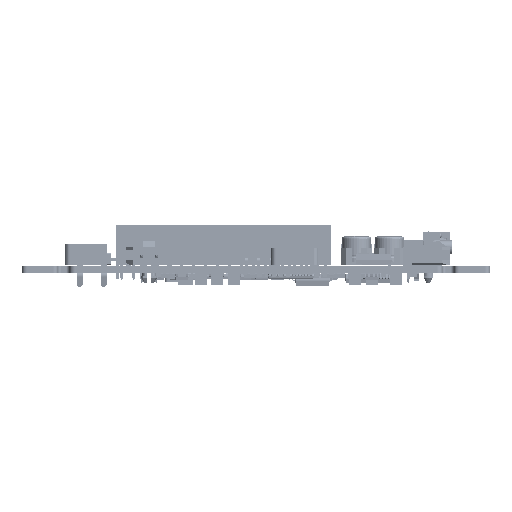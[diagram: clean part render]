
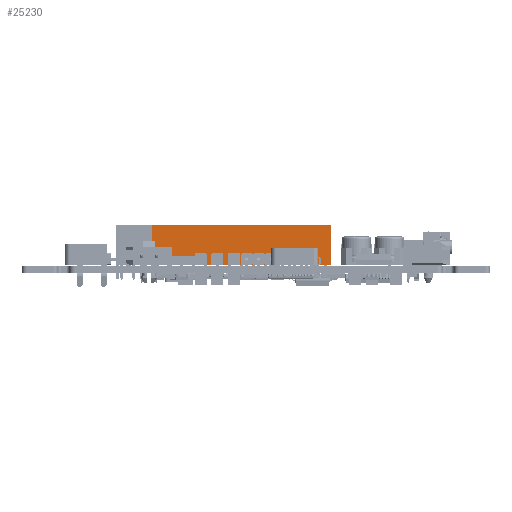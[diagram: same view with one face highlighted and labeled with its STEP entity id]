
A CAD part, left-side view. The second image highlights one B-rep face of the part: STEP entity #25230.
In plain terms, the highlighted planar face has unit normal (-1, 0, 0).
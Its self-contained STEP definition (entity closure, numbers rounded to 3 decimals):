
#23507 = VERTEX_POINT('',#23508);
#23508 = CARTESIAN_POINT('',(-1.27,-36.83,0.));
#23516 = EDGE_CURVE('',#23507,#23517,#23519,.T.);
#23517 = VERTEX_POINT('',#23518);
#23518 = CARTESIAN_POINT('',(-1.27,-36.83,8.5));
#23519 = LINE('',#23520,#23521);
#23520 = CARTESIAN_POINT('',(-1.27,-36.83,0.));
#23521 = VECTOR('',#23522,1.);
#23522 = DIRECTION('',(0.,0.,1.));
#23579 = VERTEX_POINT('',#23580);
#23580 = CARTESIAN_POINT('',(-1.27,1.27,8.5));
#23586 = EDGE_CURVE('',#23587,#23579,#23589,.T.);
#23587 = VERTEX_POINT('',#23588);
#23588 = CARTESIAN_POINT('',(-1.27,1.27,0.));
#23589 = LINE('',#23590,#23591);
#23590 = CARTESIAN_POINT('',(-1.27,1.27,0.));
#23591 = VECTOR('',#23592,1.);
#23592 = DIRECTION('',(0.,0.,1.));
#23651 = EDGE_CURVE('',#23579,#23517,#23652,.T.);
#23652 = LINE('',#23653,#23654);
#23653 = CARTESIAN_POINT('',(-1.27,1.27,8.5));
#23654 = VECTOR('',#23655,1.);
#23655 = DIRECTION('',(0.,-1.,0.));
#24184 = EDGE_CURVE('',#23587,#23507,#24185,.T.);
#24185 = LINE('',#24186,#24187);
#24186 = CARTESIAN_POINT('',(-1.27,1.27,0.));
#24187 = VECTOR('',#24188,1.);
#24188 = DIRECTION('',(0.,-1.,0.));
#25230 = ADVANCED_FACE('',(#25231),#25237,.F.);
#25231 = FACE_BOUND('',#25232,.F.);
#25232 = EDGE_LOOP('',(#25233,#25234,#25235,#25236));
#25233 = ORIENTED_EDGE('',*,*,#23586,.T.);
#25234 = ORIENTED_EDGE('',*,*,#23651,.T.);
#25235 = ORIENTED_EDGE('',*,*,#23516,.F.);
#25236 = ORIENTED_EDGE('',*,*,#24184,.F.);
#25237 = PLANE('',#25238);
#25238 = AXIS2_PLACEMENT_3D('',#25239,#25240,#25241);
#25239 = CARTESIAN_POINT('',(-1.27,1.27,0.));
#25240 = DIRECTION('',(1.,0.,0.));
#25241 = DIRECTION('',(0.,-1.,0.));
